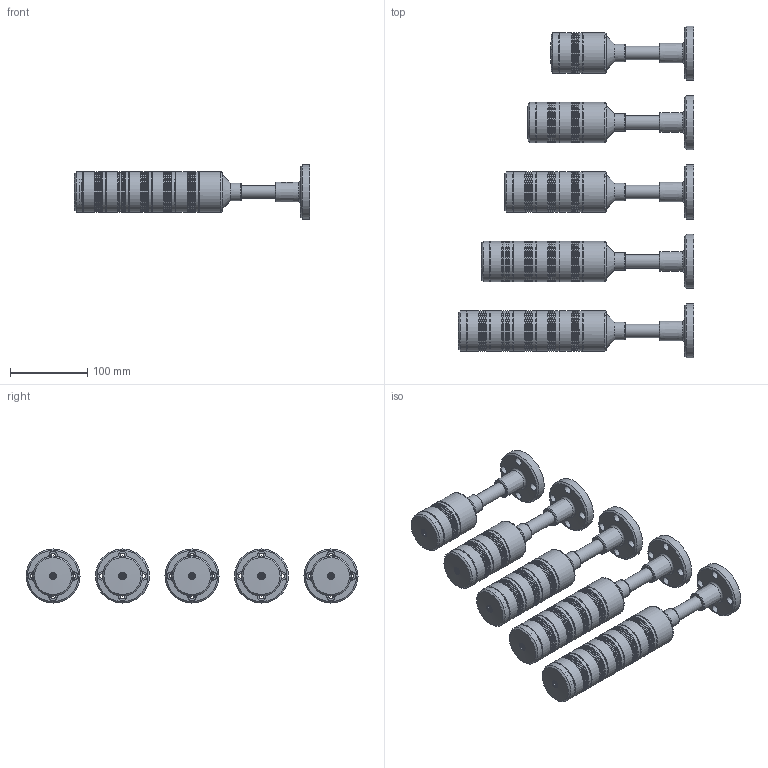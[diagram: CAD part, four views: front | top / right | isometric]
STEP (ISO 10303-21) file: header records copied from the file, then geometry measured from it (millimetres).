
FILE_DESCRIPTION (( 'STEP AP214' ), '1' );
FILE_NAME ('T52-18D.STEP', '2026-01-14T00:58:26', ( '' ), ( '' ), 'SwSTEP 2.0', 'SolidWorks 2023', '' );
FILE_SCHEMA (( 'AUTOMOTIVE_DESIGN' ));
Length unit declared in the file: millimetre
Products named in the file (4): T52-18D; 10cm安装管; T52-18D灯体; T52-18D安装底座
Assembly tree (7 placements, depth 2):
  T52-18D
    T52-18D安装底座
    T52-18D灯体
    10cm安装管  x5
Bounding box: 305.18 x 430 x 70 mm (x, y, z)
Volume: 1737233.3 mm3; surface area: 387123.4 mm2
Topology: 35 solids, 50 shells, 930 faces, 2280 edges, 1490 vertices
Faces by surface type: cylinder 310, plane 270, torus 240, cone 70, bspline 30, sphere 10
Full cylindrical faces by diameter (mm): 4.2 x5, 5.5 x20, 5.6 x5, 6 x5, 8 x5, 10.5 x20, 12 x5, 13.1 x5, 17.2 x5, 18.5 x10, 23 x5, 48.8 x30, 49.1 x15, 51.4 x5, 52 x85, 70 x5
Entity records: 29903 total; most frequent: CARTESIAN_POINT 11137, DIRECTION 3861, ORIENTED_EDGE 3058, AXIS2_PLACEMENT_3D 1768, EDGE_LOOP 1568, EDGE_CURVE 1529, FACE_OUTER_BOUND 1381, VERTEX_POINT 1239
